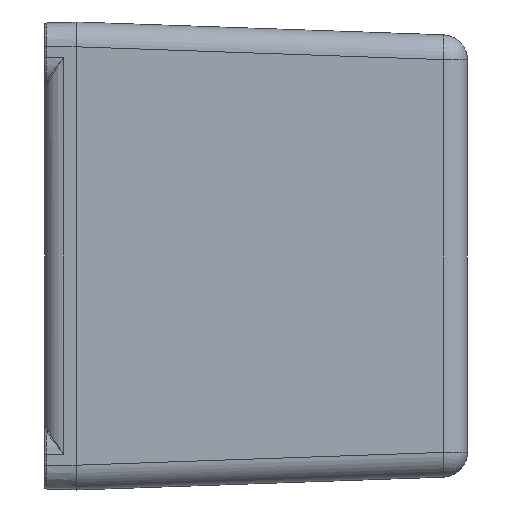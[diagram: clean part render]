
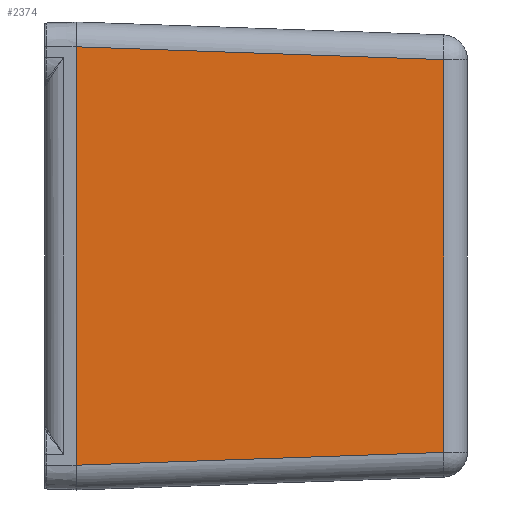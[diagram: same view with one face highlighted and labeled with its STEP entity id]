
A CAD part, left-side view. The second image highlights one B-rep face of the part: STEP entity #2374.
In plain terms, the highlighted planar face has unit normal (-0.999, -0.035, 0).
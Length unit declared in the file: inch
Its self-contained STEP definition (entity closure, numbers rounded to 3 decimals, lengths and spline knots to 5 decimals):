
#454 = ORIENTED_EDGE ( 'NONE', *, *, #4651, .T. ) ;
#456 = VERTEX_POINT ( 'NONE', #8512 ) ;
#509 = PLANE ( 'NONE',  #1202 ) ;
#750 = VECTOR ( 'NONE', #4601, 39.37008 ) ;
#1107 = DIRECTION ( 'NONE',  ( 0.035, -0.999, 0. ) ) ;
#1162 = LINE ( 'NONE', #2639, #750 ) ;
#1184 = CARTESIAN_POINT ( 'NONE',  ( -2.18, 0., -1.05408 ) ) ;
#1202 = AXIS2_PLACEMENT_3D ( 'NONE', #5106, #6326, #1107 ) ;
#1334 = DIRECTION ( 'NONE',  ( 0.035, -0.999, 0.035 ) ) ;
#1967 = CARTESIAN_POINT ( 'NONE',  ( -2.17728, -0.07779, 1.05136 ) ) ;
#2270 = CARTESIAN_POINT ( 'NONE',  ( -2.18, 0., 1.05408 ) ) ;
#2337 = CARTESIAN_POINT ( 'NONE',  ( -2.18, 0., -1.179 ) ) ;
#2363 = VECTOR ( 'NONE', #3379, 39.37008 ) ;
#2374 = ADVANCED_FACE ( 'NONE', ( #3888 ), #509, .T. ) ;
#2639 = CARTESIAN_POINT ( 'NONE',  ( -2.11535, -1.85136, -1.179 ) ) ;
#2699 = CARTESIAN_POINT ( 'NONE',  ( -2.18015, 0.00435, -1.05423 ) ) ;
#2899 = LINE ( 'NONE', #1967, #2363 ) ;
#3136 = ORIENTED_EDGE ( 'NONE', *, *, #6626, .T. ) ;
#3235 = VERTEX_POINT ( 'NONE', #5337 ) ;
#3379 = DIRECTION ( 'NONE',  ( -0.035, 0.999, 0.035 ) ) ;
#3888 = FACE_OUTER_BOUND ( 'NONE', #3963, .T. ) ;
#3963 = EDGE_LOOP ( 'NONE', ( #3136, #454, #7841, #6255 ) ) ;
#4430 = LINE ( 'NONE', #2699, #6757 ) ;
#4566 = EDGE_CURVE ( 'NONE', #8413, #4933, #5075, .T. ) ;
#4601 = DIRECTION ( 'NONE',  ( 0., 0., 1. ) ) ;
#4651 = EDGE_CURVE ( 'NONE', #3235, #456, #1162, .T. ) ;
#4933 = VERTEX_POINT ( 'NONE', #2270 ) ;
#5075 = LINE ( 'NONE', #2337, #5576 ) ;
#5106 = CARTESIAN_POINT ( 'NONE',  ( -2.18, 0., -1.179 ) ) ;
#5337 = CARTESIAN_POINT ( 'NONE',  ( -2.11535, -1.85136, -0.98943 ) ) ;
#5576 = VECTOR ( 'NONE', #8274, 39.37008 ) ;
#5836 = EDGE_CURVE ( 'NONE', #456, #4933, #2899, .T. ) ;
#6255 = ORIENTED_EDGE ( 'NONE', *, *, #4566, .F. ) ;
#6326 = DIRECTION ( 'NONE',  ( -0.999, -0.035, 0. ) ) ;
#6626 = EDGE_CURVE ( 'NONE', #8413, #3235, #4430, .T. ) ;
#6757 = VECTOR ( 'NONE', #1334, 39.37008 ) ;
#7841 = ORIENTED_EDGE ( 'NONE', *, *, #5836, .T. ) ;
#8274 = DIRECTION ( 'NONE',  ( 0., 0., 1. ) ) ;
#8413 = VERTEX_POINT ( 'NONE', #1184 ) ;
#8512 = CARTESIAN_POINT ( 'NONE',  ( -2.11535, -1.85136, 0.98943 ) ) ;
